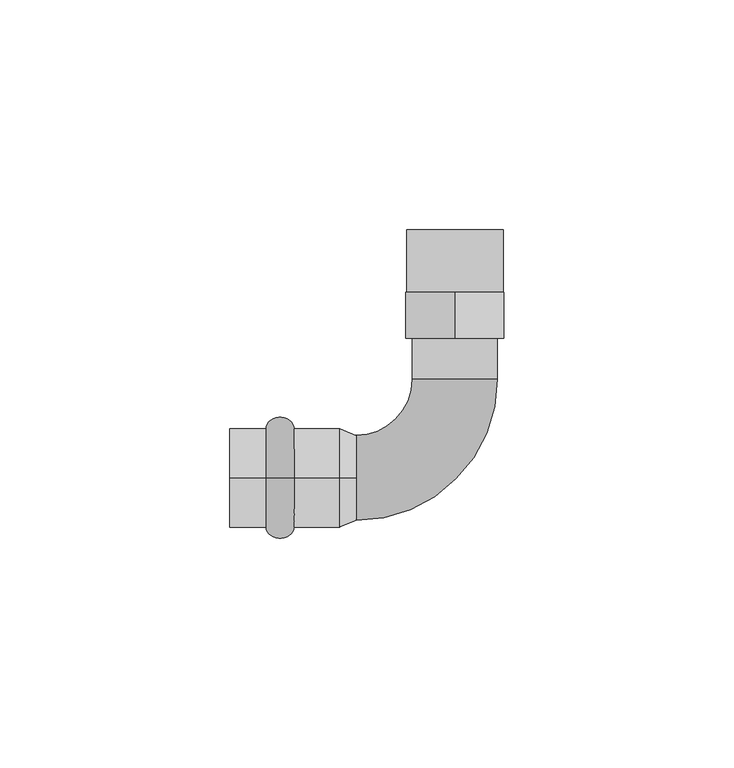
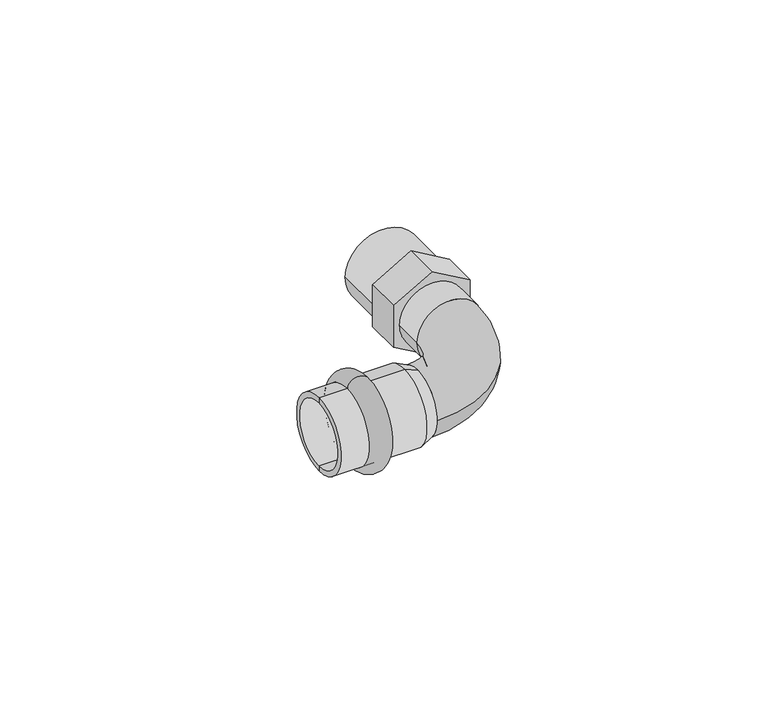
"""IFC4 building model written with IfcOpenShell, lengths in millimetres: pipe fitting geometry."""

from ifc_helpers import new_model, si_unit, point, frame, frame_2d, origin, place, context, project, spatial, polyline, circle_curve, ellipse_curve, trimmed, segment, composite_curve, outline, extrude, source, transform, mapped, element, save
from ifc_brep_helpers import plane_surface, cylinder_surface, revolved_surface, advanced_brep


def pipe_fitting_943fb51e(model_context):
    return source(origin(), model_context, "Body", "SolidModel", [
        advanced_brep(
        [(-16.1, 0.0, 10.75), (-16.1, 0.0, -10.75), (-10.0, 0.0, -10.75), (-10.0, 0.0, 10.75)],
        [
            (0, 1, circle_curve(frame((-16.1, 0.0, 0.0), z_axis=(-1.0, 0.0, 0.0), x_axis=(0.0, 0.0, -1.0)), 10.75)),
            (1, 2),
            (2, 3, circle_curve(frame((-10.0, 0.0, 0.0), z_axis=(1.0, 0.0, 0.0), x_axis=(0.0, 0.0, -1.0)), 10.75)),
            (3, 0),
            (1, 0, circle_curve(frame((-16.1, 0.0, 0.0), z_axis=(-1.0, 0.0, 0.0), x_axis=(0.0, 0.0, -1.0)), 10.75)),
            (3, 2, circle_curve(frame((-10.0, 0.0, 0.0), z_axis=(1.0, 0.0, 0.0), x_axis=(0.0, 0.0, -1.0)), 10.75)),
            (2, 1, ellipse_curve(frame((-13.05, 0.0, -10.75), z_axis=(0.0, 1.0, 0.0), x_axis=(-1.0, 0.0, 0.0)), 3.05, 2.5)),
            (0, 3, ellipse_curve(frame((-13.05, 0.0, 10.75), z_axis=(0.0, 1.0, 0.0), x_axis=(-1.0, 0.0, 0.0)), 3.05, 2.5)),
        ],
        [
            revolved_surface(polyline([(-10.0, 0.0, -10.75), (-16.1, 0.0, -10.75)]), (3.0, 0.0, 0.0), (1.0, 0.0, 0.0)),
            revolved_surface(trimmed(ellipse_curve(frame((-13.05, 0.0, -10.75), z_axis=(0.0, -1.0, 0.0), x_axis=(-1.0, 0.0, 0.0)), 3.05, 2.5), [point((-16.1, 0.0, -10.75))], [point((-10.0, 0.0, -10.75))], True, "CARTESIAN"), (3.0, 0.0, 0.0), (1.0, 0.0, 0.0)),
        ],
        [
            (0, [[1, 2, 3, 4]]),
            (0, [[5, -4, 6, -2]]),
            (1, [[-3, 7, -1, 8]]),
            (1, [[-6, -8, -5, -7]]),
        ],
    ),
        advanced_brep(
        [(3.5337785, 0.0, 9.25), (3.5337785, 0.0, -9.25), (0.0, 0.0, -10.75), (0.0, 0.0, 10.75), (-24.0, 0.0, 9.25), (-24.0, 0.0, -9.25), (-24.0, 0.0, 10.75), (-24.0, 0.0, -10.75)],
        [
            (0, 1, circle_curve(frame((3.5337785, 0.0, 0.0), z_axis=(-1.0, 0.0, 0.0), x_axis=(0.0, 0.0, -1.0)), 9.25)),
            (1, 2),
            (2, 3, circle_curve(frame((0.0, 0.0, 0.0), z_axis=(1.0, 0.0, 0.0), x_axis=(0.0, 0.0, -1.0)), 10.75)),
            (3, 0),
            (1, 0, circle_curve(frame((3.5337785, 0.0, 0.0), z_axis=(-1.0, 0.0, 0.0), x_axis=(0.0, 0.0, -1.0)), 9.25)),
            (3, 2, circle_curve(frame((0.0, 0.0, 0.0), z_axis=(1.0, 0.0, 0.0), x_axis=(0.0, 0.0, -1.0)), 10.75)),
            (4, 5, circle_curve(frame((-24.0, 0.0, 0.0), z_axis=(-1.0, 0.0, 0.0), x_axis=(0.0, 0.0, -1.0)), 9.25)),
            (5, 1),
            (0, 4),
            (5, 4, circle_curve(frame((-24.0, 0.0, 0.0), z_axis=(-1.0, 0.0, 0.0), x_axis=(0.0, 0.0, -1.0)), 9.25)),
            (6, 7, circle_curve(frame((-24.0, 0.0, 0.0), z_axis=(-1.0, 0.0, 0.0), x_axis=(0.0, 0.0, -1.0)), 10.75)),
            (7, 5),
            (4, 6),
            (7, 6, circle_curve(frame((-24.0, 0.0, 0.0), z_axis=(-1.0, 0.0, 0.0), x_axis=(0.0, 0.0, -1.0)), 10.75)),
            (2, 7),
            (6, 3),
        ],
        [
            revolved_surface(polyline([(0.0, 0.0, -10.75), (3.5337785, 0.0, -9.25)]), (3.0, 0.0, 0.0), (1.0, 0.0, 0.0)),
            revolved_surface(polyline([(3.5337785, 0.0, -9.25), (-24.0, 0.0, -9.25)]), (3.0, 0.0, 0.0), (1.0, 0.0, 0.0)),
            plane_surface(frame((-24.0, 0.0, 0.0), z_axis=(-1.0, 0.0, 0.0), x_axis=(0.0, 0.0, -1.0))),
            cylinder_surface(frame((3.0, 0.0, 0.0), z_axis=(1.0, 0.0, 0.0), x_axis=(0.0, 0.0, -1.0)), 10.75),
        ],
        [
            (0, [[1, 2, 3, 4]]),
            (0, [[5, -4, 6, -2]]),
            (1, [[7, 8, -1, 9]]),
            (1, [[10, -9, -5, -8]]),
            (2, [[11, 12, -7, 13]]),
            (2, [[14, -13, -10, -12]]),
            (3, [[-3, 15, -11, 16]]),
            (3, [[-6, -16, -14, -15]]),
        ],
    ),
        extrude(outline(polyline([(6.1776479, 35.7), (12.3552958, 25.0), (6.1776479, 14.3), (-6.1776479, 14.3), (-12.3552958, 25.0), (-6.1776479, 35.7), (6.1776479, 35.7)]), holes=[polyline([(-2.4537386, 20.75), (2.4537386, 20.75), (4.9074773, 25.0), (2.4537386, 29.25), (-2.4537386, 29.25), (-4.9074773, 25.0), (-2.4537386, 20.75)])]), frame((0.0, 30.4, 0.0), z_axis=(0.0, 1.0, 0.0), x_axis=(0.0, 0.0, 1.0)), (0.0, 0.0, 1.0), 10.0),
        extrude(outline(composite_curve([segment(trimmed(circle_curve(frame_2d((0.0, 25.0)), 10.5), [point((0.0, 14.5))], [point((0.0, 35.5))], False, "CARTESIAN"), True, "CONTINUOUS"), segment(trimmed(circle_curve(frame_2d((0.0, 25.0)), 10.5), [point((0.0, 35.5))], [point((0.0, 14.5))], False, "CARTESIAN"), True, "CONTINUOUS")], self_intersect=False)), frame((0.0, 40.4, 0.0), z_axis=(0.0, 1.0, 0.0), x_axis=(0.0, 0.0, 1.0)), (0.0, 0.0, 1.0), 13.6),
        advanced_brep(
        [(0.0, -9.25, 0.0), (0.0, 9.25, 0.0), (3.5337785, -9.25, 0.0), (3.5337785, 9.25, 0.0), (15.75, 21.4662215, 0.0), (34.25, 21.4662215, 0.0), (34.25, 30.4, 0.0), (15.75, 30.4, 0.0)],
        [
            (0, 1, circle_curve(frame((0.0, 0.0, 0.0), z_axis=(-1.0, 0.0, 0.0), x_axis=(0.0, 1.0, 0.0)), 9.25)),
            (1, 0, circle_curve(frame((0.0, 0.0, 0.0), z_axis=(-1.0, 0.0, 0.0), x_axis=(0.0, 1.0, 0.0)), 9.25)),
            (0, 2),
            (2, 3, circle_curve(frame((3.5337785, 0.0, 0.0), z_axis=(-1.0, 0.0, 0.0), x_axis=(0.0, 1.0, 0.0)), 9.25)),
            (3, 1),
            (3, 2, circle_curve(frame((3.5337785, 0.0, 0.0), z_axis=(-1.0, 0.0, 0.0), x_axis=(0.0, 1.0, 0.0)), 9.25)),
            (4, 3, circle_curve(frame((3.5337785, 21.4662215, 0.0), z_axis=(0.0, 0.0, -1.0), x_axis=(0.0, -1.0, 0.0)), 12.2162215)),
            (2, 5, circle_curve(frame((3.5337785, 21.4662215, 0.0), z_axis=(0.0, 0.0, 1.0), x_axis=(0.0, -1.0, 0.0)), 30.7162215)),
            (5, 4, circle_curve(frame((25.0, 21.4662215, 0.0), z_axis=(0.0, -1.0, 0.0), x_axis=(-1.0, 0.0, 0.0)), 9.25)),
            (4, 5, circle_curve(frame((25.0, 21.4662215, 0.0), z_axis=(0.0, -1.0, 0.0), x_axis=(-1.0, 0.0, 0.0)), 9.25)),
            (6, 7, circle_curve(frame((25.0, 30.4, 0.0), z_axis=(0.0, 1.0, 0.0), x_axis=(-1.0, 0.0, 0.0)), 9.25)),
            (7, 6, circle_curve(frame((25.0, 30.4, 0.0), z_axis=(0.0, 1.0, 0.0), x_axis=(-1.0, 0.0, 0.0)), 9.25)),
            (5, 6),
            (7, 4),
        ],
        [
            plane_surface(frame((0.0, 0.0, 0.0), z_axis=(-1.0, 0.0, 0.0), x_axis=(0.0, 0.0, 1.0))),
            cylinder_surface(frame((0.0, 0.0, 0.0), z_axis=(-1.0, 0.0, 0.0), x_axis=(0.0, 1.0, 0.0)), 9.25),
            revolved_surface(trimmed(ellipse_curve(frame((3.5337785, 0.0, 0.0), z_axis=(-1.0, 0.0, 0.0), x_axis=(0.0, 1.0, 0.0)), 9.25, 9.25), [point((3.5337785, -9.25, 0.0))], [point((3.5337785, 9.25, 0.0))], True, "CARTESIAN"), (3.5337785, 21.4662215, 0.0), (0.0, 0.0, 1.0)),
            revolved_surface(trimmed(ellipse_curve(frame((3.5337785, 0.0, 0.0), z_axis=(-1.0, 0.0, 0.0), x_axis=(0.0, 1.0, 0.0)), 9.25, 9.25), [point((3.5337785, 9.25, 0.0))], [point((3.5337785, -9.25, 0.0))], True, "CARTESIAN"), (3.5337785, 21.4662215, 0.0), (0.0, 0.0, 1.0)),
            plane_surface(frame((25.0, 30.4, 0.0), z_axis=(0.0, 1.0, 0.0), x_axis=(0.0, 0.0, 1.0))),
            cylinder_surface(frame((25.0, 21.4662215, 0.0), z_axis=(0.0, -1.0, 0.0), x_axis=(-1.0, 0.0, 0.0)), 9.25),
        ],
        [
            (0, [[1, 2]]),
            (1, [[-1, 3, 4, 5]]),
            (1, [[-2, -5, 6, -3]]),
            (2, [[7, -4, 8, 9]]),
            (3, [[-8, -6, -7, 10]]),
            (4, [[11, 12]]),
            (5, [[-9, 13, -12, 14]]),
            (5, [[-10, -14, -11, -13]]),
        ],
    ),
    ])


if __name__ == "__main__":
    model = new_model("IFC4")
    model_context = context("Model", 3, world=origin())
    ifc_project = project(units=[si_unit("LENGTHUNIT", "METRE", prefix="MILLI")], contexts=[model_context])
    site = spatial("IfcSite", under=ifc_project)
    building = spatial("IfcBuilding", under=site)
    placement = place(None, origin())
    pipe_fitting_shape = pipe_fitting_943fb51e(model_context)
    element("IfcPipeFitting", 1, ObjectType="РЕХАУ_Пресс Отвод НР : 18 x R 1/2\"", at=placement, inside=building, context=model_context, shape_type="MappedRepresentation", body=[
        mapped(pipe_fitting_shape, transform((0.0, 0.0, 0.0), x_axis=(1.0, 0.0, 0.0), y_axis=(0.0, 1.0, 0.0), z_axis=(0.0, 0.0, 1.0))),
    ])
    save(model, "model.ifc")
